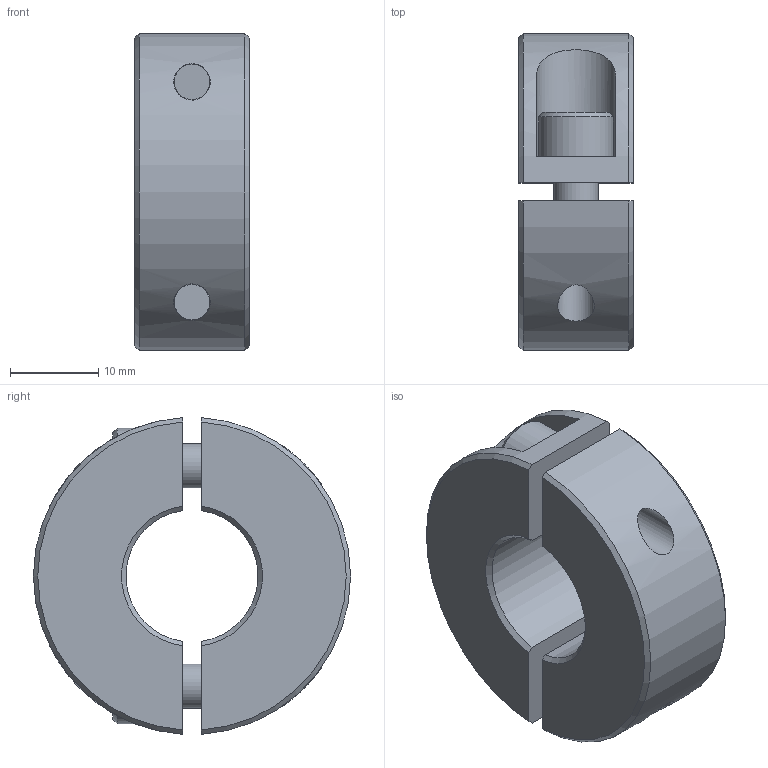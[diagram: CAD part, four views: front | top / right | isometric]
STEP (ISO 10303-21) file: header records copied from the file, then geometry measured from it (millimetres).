
FILE_DESCRIPTION(/* description */ ('STEP AP214'),/* implementation_level */ '2;1');
FILE_NAME(/* name */ 'Split Shaft Collar_ Aluminum GN 707.2-36-B15-AL',/* time_stamp */ '2024-06-10T15:26:30+02:00',/* author */ ('License CC BY-ND 4.0'),/* organization */ ('CADENAS'),/* preprocessor_version */ 'ST-DEVELOPER v19.3',/* originating_system */ 'PARTsolutions',/* authorisation */ ' ');
FILE_SCHEMA (('AUTOMOTIVE_DESIGN {1 0 10303 214 3 1 1}'));
Length unit declared in the file: millimetre
Products named in the file (1): Split Shaft Collar, Aluminum GN 707.2-36-B15-AL
Bounding box: 13 x 36 x 35.94 mm (x, y, z)
Volume: 9576 mm3; surface area: 4955.3 mm2
Topology: 1 solids, 1 shells, 72 faces, 168 edges, 108 vertices
Faces by surface type: plane 44, cylinder 14, cone 14
Full cylindrical faces by diameter (mm): 4.134 x2, 5 x2, 5.3 x2, 8.5 x2
Entity records: 2506 total; most frequent: CARTESIAN_POINT 421, DIRECTION 324, ORIENTED_EDGE 292, EDGE_CURVE 146, AXIS2_PLACEMENT_3D 125, VERTEX_POINT 102, FACE_BOUND 100, EDGE_LOOP 98
